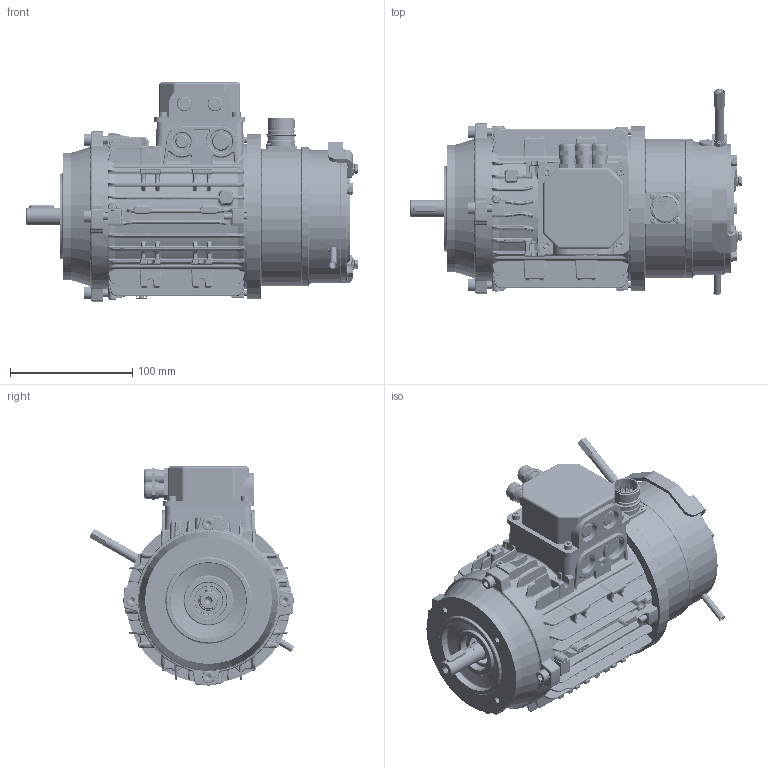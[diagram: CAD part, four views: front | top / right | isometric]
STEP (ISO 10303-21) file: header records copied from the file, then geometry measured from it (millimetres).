
FILE_DESCRIPTION(/* description */ (''),/* implementation_level */ '2;1');
FILE_NAME(/* name */ 'Z:\SITO WEB 2024\Motori\Motori PMAC\D.110 mm\PMAC-B14.71-P10-D.110.stp',/* time_stamp */ '2024-01-29T09:35:21+01:00',/* author */ ('cad3'),/* organization */ (''),/* preprocessor_version */ 'ST-DEVELOPER v18.1',/* originating_system */ 'Autodesk Inventor 2022',/* authorisation */ '');
FILE_SCHEMA (('AUTOMOTIVE_DESIGN { 1 0 10303 214 3 1 1 }'));
Products named in the file (1): PMAC-B14.71-P10-D.110
Bounding box: 271.2 x 168.14 x 179 mm (x, y, z)
Volume: 904065.5 mm3; surface area: 432794.5 mm2
Topology: 103 solids, 200 shells, 8699 faces, 20566 edges, 12200 vertices
Faces by surface type: plane 3115, bspline 2252, cylinder 2071, torus 570, cone 355, sphere 336
Full cylindrical faces by diameter (mm): 0.9 x12, 1.2 x4, 2 x9, 2.9 x8, 3.15 x1, 3.2 x15, 3.242 x10, 4 x9, 4.134 x12, 4.2 x2, 4.3 x6, 4.5 x7, 4.917 x4, 5 x14, 5.2 x21, 5.3 x4, 5.5 x5, 6 x5, 6.7 x1, 6.88 x3, 6.917 x3, 7 x7, 7.1 x1, 7.5 x3, 7.8 x1, 8 x2, 8.4 x1, 8.5 x3, 9 x16, 10 x9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
Entity records: 359459 total; most frequent: CARTESIAN_POINT 159647, ORIENTED_EDGE 40822, DIRECTION 39131, EDGE_CURVE 20411, AXIS2_PLACEMENT_3D 15480, VERTEX_POINT 12391, EDGE_LOOP 9239, STYLED_ITEM 8802
